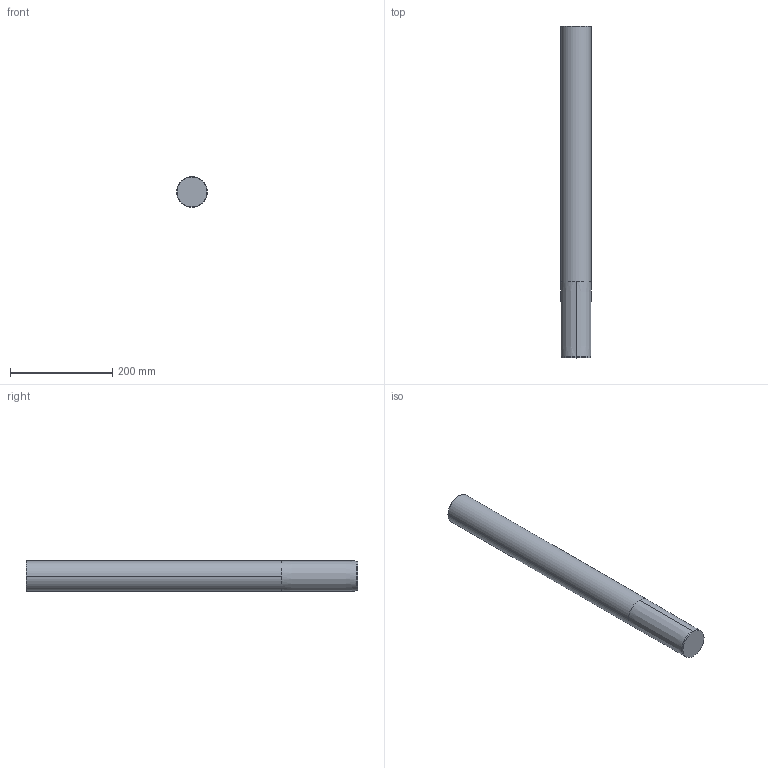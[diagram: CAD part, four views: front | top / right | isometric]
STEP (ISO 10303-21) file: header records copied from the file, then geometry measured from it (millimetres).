
FILE_DESCRIPTION((''),'2;1');
FILE_NAME('PRT0005','2025-07-01T09:21:34',('Piccioli'),(''),'CREO PARAMETRIC BY PTC INC, 2025010','CREO PARAMETRIC BY PTC INC, 2025010','');
FILE_SCHEMA(('CONFIG_CONTROL_DESIGN'));
Length unit declared in the file: millimetre
Products named in the file (1): PRT0005
Bounding box: 60 x 650 x 60 mm (x, y, z)
Surface area: 128056.3 mm2 (no closed solid volume)
Topology: 0 solids, 4 shells, 12 faces, 62 edges, 54 vertices
Faces by surface type: plane 4, cone 4, cylinder 4
Entity records: 755 total; most frequent: CARTESIAN_POINT 202, DIRECTION 122, ORIENTED_EDGE 76, EDGE_CURVE 62, VERTEX_POINT 54, AXIS2_PLACEMENT_3D 52, CIRCLE 40, VECTOR 18
